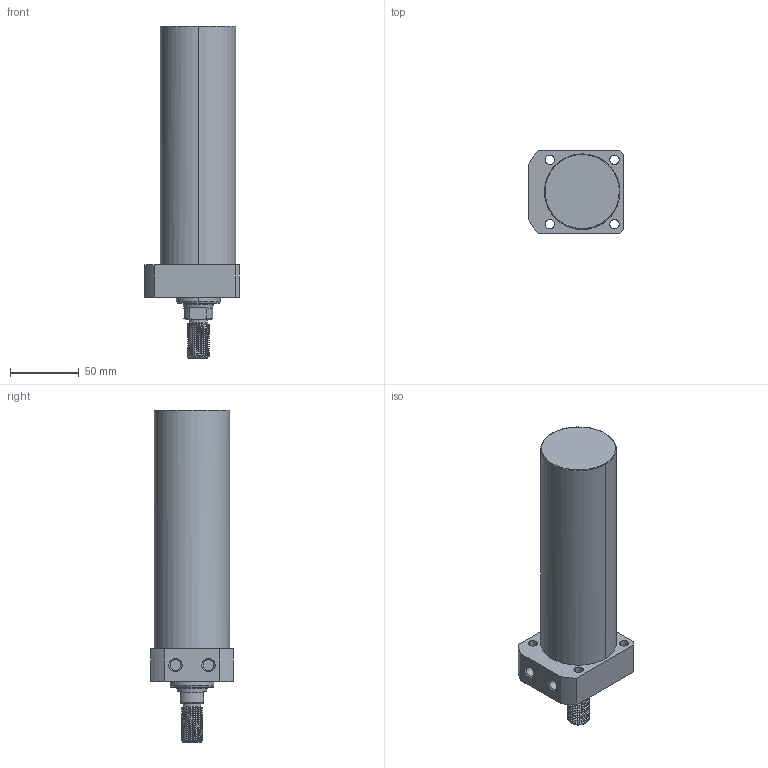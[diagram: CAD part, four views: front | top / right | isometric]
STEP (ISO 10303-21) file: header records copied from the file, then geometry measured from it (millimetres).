
FILE_DESCRIPTION((' '),'2;1');
FILE_NAME( 'TLLR-055CT-145.STEP.stp', '2025-10-24T16:34:50', (' '), ('--- Datakit www.datakit.com---'), ' Datakit CrossCadWare V2024.1 Dec 21 2023', 'Mastercam 2025', ' ');
FILE_SCHEMA(('AUTOMOTIVE_DESIGN { 1 0 10303 214 1 1 1 1 }'));
Length unit declared in the file: millimetre
Products named in the file (1): TLLR-055CT-145
Bounding box: 69 x 60 x 242 mm (x, y, z)
Volume: 518061.7 mm3; surface area: 49933.8 mm2
Topology: 1 solids, 1 shells, 101 faces, 359 edges, 268 vertices
Faces by surface type: cylinder 61, plane 20, cone 16, bspline 2, torus 2
Entity records: 10266 total; most frequent: CARTESIAN_POINT 7169, ORIENTED_EDGE 718, DIRECTION 518, EDGE_CURVE 359, VERTEX_POINT 268, AXIS2_PLACEMENT_3D 210, B_SPLINE_CURVE_WITH_KNOTS 150, EDGE_LOOP 117
